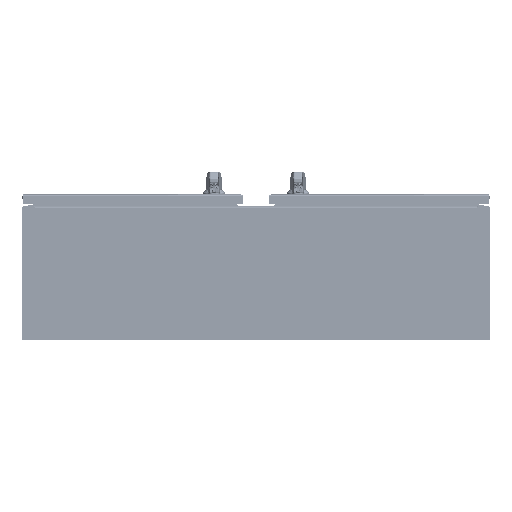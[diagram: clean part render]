
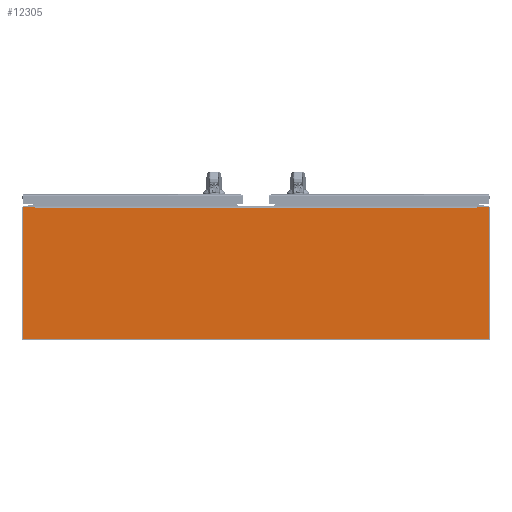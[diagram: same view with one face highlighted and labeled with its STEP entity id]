
A CAD part, front view. The second image highlights one B-rep face of the part: STEP entity #12305.
In plain terms, the highlighted planar face has unit normal (0, -1, 0).
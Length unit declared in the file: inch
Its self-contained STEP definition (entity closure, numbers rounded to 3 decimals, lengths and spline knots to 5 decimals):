
#10312=CARTESIAN_POINT('',(-20.857,0.,5.857));
#10313=DIRECTION('',(0.,-1.,0.));
#10314=DIRECTION('',(0.,0.,1.));
#10315=AXIS2_PLACEMENT_3D('',#10312,#10313,#10314);
#10320=DIRECTION('',(-1.,0.,0.));
#10321=VECTOR('',#10320,1.02894);
#10322=CARTESIAN_POINT('',(-19.82806,0.,5.937));
#10323=LINE('',#10322,#10321);
#10327=DIRECTION('',(0.174,0.,-0.985));
#10328=VECTOR('',#10327,0.08326);
#10329=CARTESIAN_POINT('',(-19.82806,0.,5.937));
#10330=LINE('',#10329,#10328);
#10334=DIRECTION('',(-1.,0.,0.));
#10335=VECTOR('',#10334,0.0156);
#10336=CARTESIAN_POINT('',(-19.798,0.,5.855));
#10337=LINE('',#10336,#10335);
#10341=DIRECTION('',(1.,0.,0.));
#10342=VECTOR('',#10341,0.0156);
#10343=CARTESIAN_POINT('',(19.798,0.,5.855));
#10344=LINE('',#10343,#10342);
#10348=DIRECTION('',(-0.174,0.,-0.985));
#10349=VECTOR('',#10348,0.08326);
#10350=CARTESIAN_POINT('',(19.82806,0.,5.937));
#10351=LINE('',#10350,#10349);
#10355=DIRECTION('',(-1.,0.,0.));
#10356=VECTOR('',#10355,1.02894);
#10357=CARTESIAN_POINT('',(20.857,0.,5.937));
#10358=LINE('',#10357,#10356);
#10362=CARTESIAN_POINT('',(20.857,0.,5.857));
#10363=DIRECTION('',(0.,-1.,0.));
#10364=DIRECTION('',(1.,0.,0.));
#10365=AXIS2_PLACEMENT_3D('',#10362,#10363,#10364);
#10370=DIRECTION('',(0.,0.,1.));
#10371=VECTOR('',#10370,11.714);
#10372=CARTESIAN_POINT('',(20.937,0.,-5.857));
#10373=LINE('',#10372,#10371);
#10377=CARTESIAN_POINT('',(20.857,0.,-5.857));
#10378=DIRECTION('',(0.,-1.,0.));
#10379=DIRECTION('',(0.,0.,-1.));
#10380=AXIS2_PLACEMENT_3D('',#10377,#10378,#10379);
#10385=DIRECTION('',(1.,0.,0.));
#10386=VECTOR('',#10385,41.714);
#10387=CARTESIAN_POINT('',(-20.857,0.,-5.937));
#10388=LINE('',#10387,#10386);
#10392=CARTESIAN_POINT('',(-20.857,0.,-5.857));
#10393=DIRECTION('',(0.,-1.,0.));
#10394=DIRECTION('',(-1.,0.,0.));
#10395=AXIS2_PLACEMENT_3D('',#10392,#10393,#10394);
#10400=DIRECTION('',(0.,0.,-1.));
#10401=VECTOR('',#10400,11.714);
#10402=CARTESIAN_POINT('',(-20.937,0.,5.857));
#10403=LINE('',#10402,#10401);
#10681=DIRECTION('',(1.,0.,0.));
#10682=VECTOR('',#10681,39.596);
#10683=CARTESIAN_POINT('',(-19.798,0.,5.855));
#10684=LINE('',#10683,#10682);
#11990=CARTESIAN_POINT('',(19.798,0.,5.855));
#11991=CARTESIAN_POINT('',(19.8136,0.,5.855));
#11992=VERTEX_POINT('',#11990);
#11993=VERTEX_POINT('',#11991);
#11994=CARTESIAN_POINT('',(19.82806,0.,5.937));
#11995=VERTEX_POINT('',#11994);
#12002=CARTESIAN_POINT('',(-19.798,0.,5.855));
#12003=CARTESIAN_POINT('',(-19.8136,0.,5.855));
#12004=VERTEX_POINT('',#12002);
#12005=VERTEX_POINT('',#12003);
#12006=CARTESIAN_POINT('',(-19.82806,0.,5.937));
#12007=VERTEX_POINT('',#12006);
#12054=CARTESIAN_POINT('',(-20.857,0.,5.937));
#12055=CARTESIAN_POINT('',(-20.937,0.,5.857));
#12056=VERTEX_POINT('',#12054);
#12057=VERTEX_POINT('',#12055);
#12062=CARTESIAN_POINT('',(-20.937,0.,-5.857));
#12063=CARTESIAN_POINT('',(-20.857,0.,-5.937));
#12064=VERTEX_POINT('',#12062);
#12065=VERTEX_POINT('',#12063);
#12070=CARTESIAN_POINT('',(20.857,0.,-5.937));
#12071=CARTESIAN_POINT('',(20.937,0.,-5.857));
#12072=VERTEX_POINT('',#12070);
#12073=VERTEX_POINT('',#12071);
#12078=CARTESIAN_POINT('',(20.937,0.,5.857));
#12079=CARTESIAN_POINT('',(20.857,0.,5.937));
#12080=VERTEX_POINT('',#12078);
#12081=VERTEX_POINT('',#12079);
#12270=CARTESIAN_POINT('',(0.,0.,0.));
#12271=DIRECTION('',(0.,-1.,0.));
#12272=DIRECTION('',(-1.,0.,0.));
#12273=AXIS2_PLACEMENT_3D('',#12270,#12271,#12272);
#12274=PLANE('',#12273);
#12276=ORIENTED_EDGE('',*,*,#12275,.F.);
#12278=ORIENTED_EDGE('',*,*,#12277,.F.);
#12280=ORIENTED_EDGE('',*,*,#12279,.T.);
#12282=ORIENTED_EDGE('',*,*,#12281,.F.);
#12284=ORIENTED_EDGE('',*,*,#12283,.T.);
#12286=ORIENTED_EDGE('',*,*,#12285,.T.);
#12288=ORIENTED_EDGE('',*,*,#12287,.F.);
#12290=ORIENTED_EDGE('',*,*,#12289,.F.);
#12292=ORIENTED_EDGE('',*,*,#12291,.F.);
#12294=ORIENTED_EDGE('',*,*,#12293,.F.);
#12296=ORIENTED_EDGE('',*,*,#12295,.F.);
#12298=ORIENTED_EDGE('',*,*,#12297,.F.);
#12300=ORIENTED_EDGE('',*,*,#12299,.F.);
#12302=ORIENTED_EDGE('',*,*,#12301,.F.);
#12303=EDGE_LOOP('',(#12276,#12278,#12280,#12282,#12284,#12286,#12288,#12290,
#12292,#12294,#12296,#12298,#12300,#12302));
#12304=FACE_OUTER_BOUND('',#12303,.F.);
#10316=CIRCLE('',#10315,0.08);
#10366=CIRCLE('',#10365,0.08);
#10381=CIRCLE('',#10380,0.08);
#10396=CIRCLE('',#10395,0.08);
#12275=EDGE_CURVE('',#12056,#12057,#10316,.T.);
#12277=EDGE_CURVE('',#12007,#12056,#10323,.T.);
#12279=EDGE_CURVE('',#12007,#12005,#10330,.T.);
#12281=EDGE_CURVE('',#12004,#12005,#10337,.T.);
#12283=EDGE_CURVE('',#12004,#11992,#10684,.T.);
#12285=EDGE_CURVE('',#11992,#11993,#10344,.T.);
#12287=EDGE_CURVE('',#11995,#11993,#10351,.T.);
#12289=EDGE_CURVE('',#12081,#11995,#10358,.T.);
#12291=EDGE_CURVE('',#12080,#12081,#10366,.T.);
#12293=EDGE_CURVE('',#12073,#12080,#10373,.T.);
#12295=EDGE_CURVE('',#12072,#12073,#10381,.T.);
#12297=EDGE_CURVE('',#12065,#12072,#10388,.T.);
#12299=EDGE_CURVE('',#12064,#12065,#10396,.T.);
#12301=EDGE_CURVE('',#12057,#12064,#10403,.T.);
#12305=ADVANCED_FACE('',(#12304),#12274,.T.);
